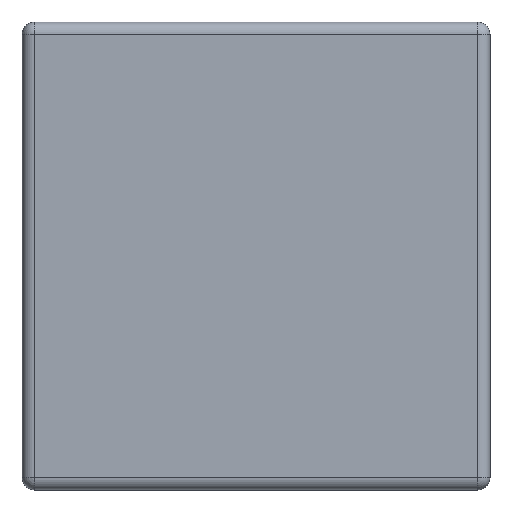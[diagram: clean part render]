
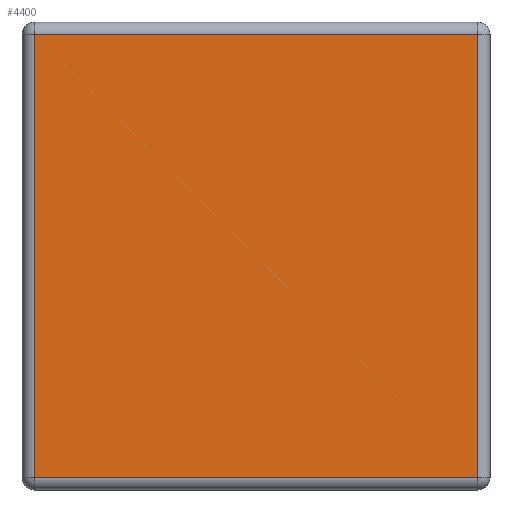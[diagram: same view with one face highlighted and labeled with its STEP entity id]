
A CAD part, front view. The second image highlights one B-rep face of the part: STEP entity #4400.
In plain terms, the highlighted planar face has unit normal (0, -1, 0).
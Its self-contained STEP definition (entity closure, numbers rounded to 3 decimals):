
#3 = ORIENTED_EDGE ( 'NONE', *, *, #3746, .T. ) ;
#176 = LINE ( 'NONE', #5707, #1964 ) ;
#258 = DIRECTION ( 'NONE',  ( 0., 0., -1. ) ) ;
#372 = DIRECTION ( 'NONE',  ( -1., 0., 0. ) ) ;
#963 = CARTESIAN_POINT ( 'NONE',  ( 42.6, 0., -42.6 ) ) ;
#1853 = VERTEX_POINT ( 'NONE', #11821 ) ;
#1964 = VECTOR ( 'NONE', #372, 1000. ) ;
#2246 = LINE ( 'NONE', #10478, #3015 ) ;
#3015 = VECTOR ( 'NONE', #10405, 1000. ) ;
#3243 = CARTESIAN_POINT ( 'NONE',  ( -42.6, 0., 0. ) ) ;
#3507 = DIRECTION ( 'NONE',  ( 0., -1., 0. ) ) ;
#3572 = CARTESIAN_POINT ( 'NONE',  ( 42.6, 0., 45. ) ) ;
#3746 = EDGE_CURVE ( 'NONE', #5304, #1853, #176, .T. ) ;
#3802 = ORIENTED_EDGE ( 'NONE', *, *, #10857, .T. ) ;
#3869 = EDGE_LOOP ( 'NONE', ( #10775, #4145, #3, #3802 ) ) ;
#4145 = ORIENTED_EDGE ( 'NONE', *, *, #4405, .T. ) ;
#4400 = ADVANCED_FACE ( 'NONE', ( #6680 ), #8757, .T. ) ;
#4405 = EDGE_CURVE ( 'NONE', #7265, #5304, #12981, .T. ) ;
#5304 = VERTEX_POINT ( 'NONE', #9233 ) ;
#5707 = CARTESIAN_POINT ( 'NONE',  ( -45., 0., 42.6 ) ) ;
#6615 = CARTESIAN_POINT ( 'NONE',  ( 0., 0., 0. ) ) ;
#6680 = FACE_OUTER_BOUND ( 'NONE', #3869, .T. ) ;
#7265 = VERTEX_POINT ( 'NONE', #963 ) ;
#7800 = VERTEX_POINT ( 'NONE', #10223 ) ;
#8431 = LINE ( 'NONE', #3243, #11042 ) ;
#8757 = PLANE ( 'NONE',  #9214 ) ;
#8989 = VECTOR ( 'NONE', #11947, 1000. ) ;
#9214 = AXIS2_PLACEMENT_3D ( 'NONE', #6615, #3507, #258 ) ;
#9233 = CARTESIAN_POINT ( 'NONE',  ( 42.6, 0., 42.6 ) ) ;
#10223 = CARTESIAN_POINT ( 'NONE',  ( -42.6, 0., -42.6 ) ) ;
#10405 = DIRECTION ( 'NONE',  ( 1., 0., 0. ) ) ;
#10478 = CARTESIAN_POINT ( 'NONE',  ( 0., 0., -42.6 ) ) ;
#10775 = ORIENTED_EDGE ( 'NONE', *, *, #11395, .T. ) ;
#10857 = EDGE_CURVE ( 'NONE', #1853, #7800, #8431, .T. ) ;
#11042 = VECTOR ( 'NONE', #11613, 1000. ) ;
#11395 = EDGE_CURVE ( 'NONE', #7800, #7265, #2246, .T. ) ;
#11613 = DIRECTION ( 'NONE',  ( 0., 0., -1. ) ) ;
#11821 = CARTESIAN_POINT ( 'NONE',  ( -42.6, 0., 42.6 ) ) ;
#11947 = DIRECTION ( 'NONE',  ( 0., 0., 1. ) ) ;
#12981 = LINE ( 'NONE', #3572, #8989 ) ;
